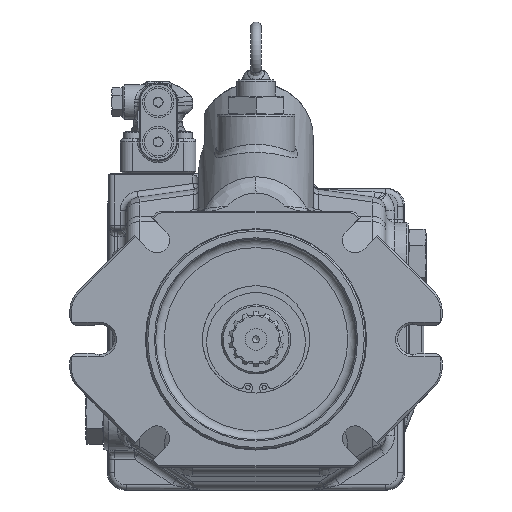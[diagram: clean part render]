
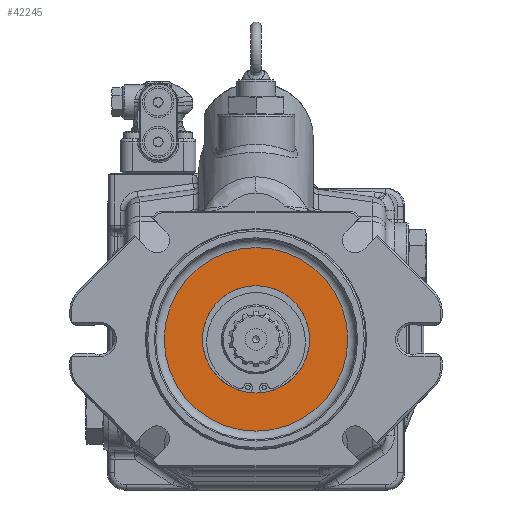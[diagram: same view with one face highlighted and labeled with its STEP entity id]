
A CAD part, front view. The second image highlights one B-rep face of the part: STEP entity #42245.
In plain terms, the highlighted planar face has unit normal (0, -1, 0).
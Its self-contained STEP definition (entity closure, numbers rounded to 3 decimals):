
#2647=FACE_BOUND('',#8615,.T.);
#3662=PLANE('',#45842);
#5969=FACE_OUTER_BOUND('',#8614,.T.);
#8614=EDGE_LOOP('',(#38081));
#8615=EDGE_LOOP('',(#38082));
#16879=CIRCLE('',#45840,31.);
#16880=CIRCLE('',#45843,53.);
#20529=VERTEX_POINT('',#85776);
#20530=VERTEX_POINT('',#85781);
#26449=EDGE_CURVE('',#20529,#20529,#16879,.T.);
#26450=EDGE_CURVE('',#20530,#20530,#16880,.T.);
#38081=ORIENTED_EDGE('',*,*,#26450,.T.);
#38082=ORIENTED_EDGE('',*,*,#26449,.F.);
#42245=ADVANCED_FACE('',(#5969,#2647),#3662,.F.);
#45840=AXIS2_PLACEMENT_3D('',#85778,#55743,#55744);
#45842=AXIS2_PLACEMENT_3D('',#85780,#55747,#55748);
#45843=AXIS2_PLACEMENT_3D('',#85782,#55749,#55750);
#55743=DIRECTION('center_axis',(0.,-1.,0.));
#55744=DIRECTION('ref_axis',(0.,0.,1.));
#55747=DIRECTION('center_axis',(0.,1.,0.));
#55748=DIRECTION('ref_axis',(0.,0.,1.));
#55749=DIRECTION('center_axis',(0.,-1.,0.));
#55750=DIRECTION('ref_axis',(0.,0.,1.));
#85776=CARTESIAN_POINT('',(-9.852,-35.274,-12.744));
#85778=CARTESIAN_POINT('Origin',(-9.852,-35.274,18.256));
#85780=CARTESIAN_POINT('Origin',(-9.852,-35.274,44.756));
#85781=CARTESIAN_POINT('',(-9.852,-35.274,71.256));
#85782=CARTESIAN_POINT('Origin',(-9.852,-35.274,18.256));
